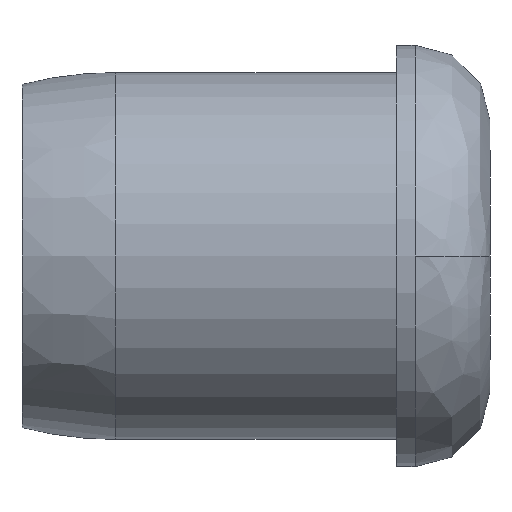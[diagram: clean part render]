
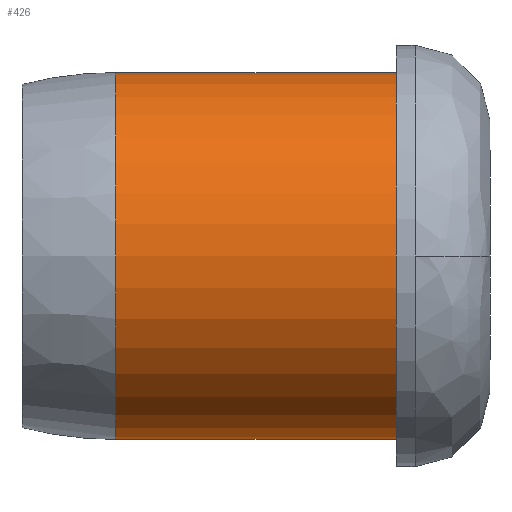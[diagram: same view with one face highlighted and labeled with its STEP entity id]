
A CAD part, front view. The second image highlights one B-rep face of the part: STEP entity #426.
In plain terms, the highlighted cylindrical face has radius 12.446 mm (diameter 24.892 mm), a partial arc.
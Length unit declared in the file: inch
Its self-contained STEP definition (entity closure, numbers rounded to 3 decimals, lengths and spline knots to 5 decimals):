
#26 = CARTESIAN_POINT ( 'NONE',  ( -0.25, 0., -0.49 ) ) ;
#40 = VECTOR ( 'NONE', #444, 39.37008 ) ;
#53 = CARTESIAN_POINT ( 'NONE',  ( -0.25, 0., 0.49 ) ) ;
#54 = EDGE_CURVE ( 'NONE', #233, #544, #381, .T. ) ;
#85 = VERTEX_POINT ( 'NONE', #400 ) ;
#94 = FACE_OUTER_BOUND ( 'NONE', #109, .T. ) ;
#96 = CARTESIAN_POINT ( 'NONE',  ( -1., 0., 0. ) ) ;
#109 = EDGE_LOOP ( 'NONE', ( #478, #308, #416, #276 ) ) ;
#126 = CARTESIAN_POINT ( 'NONE',  ( -1.25, 0., 0.49 ) ) ;
#139 = DIRECTION ( 'NONE',  ( 0., 0., 1. ) ) ;
#148 = CARTESIAN_POINT ( 'NONE',  ( -0.25, 0., 0. ) ) ;
#150 = AXIS2_PLACEMENT_3D ( 'NONE', #148, #464, #196 ) ;
#154 = DIRECTION ( 'NONE',  ( 0., 0., 1. ) ) ;
#184 = DIRECTION ( 'NONE',  ( -1., 0., 0. ) ) ;
#196 = DIRECTION ( 'NONE',  ( 0., 0., 1. ) ) ;
#206 = EDGE_CURVE ( 'NONE', #513, #85, #549, .T. ) ;
#207 = EDGE_CURVE ( 'NONE', #544, #85, #451, .T. ) ;
#233 = VERTEX_POINT ( 'NONE', #53 ) ;
#249 = DIRECTION ( 'NONE',  ( -1., 0., 0. ) ) ;
#276 = ORIENTED_EDGE ( 'NONE', *, *, #207, .T. ) ;
#292 = EDGE_CURVE ( 'NONE', #513, #233, #506, .T. ) ;
#304 = CYLINDRICAL_SURFACE ( 'NONE', #507, 0.49 ) ;
#308 = ORIENTED_EDGE ( 'NONE', *, *, #292, .T. ) ;
#381 = LINE ( 'NONE', #126, #40 ) ;
#400 = CARTESIAN_POINT ( 'NONE',  ( -1., 0., -0.49 ) ) ;
#414 = DIRECTION ( 'NONE',  ( 1., 0., 0. ) ) ;
#416 = ORIENTED_EDGE ( 'NONE', *, *, #54, .T. ) ;
#426 = ADVANCED_FACE ( 'NONE', ( #94 ), #304, .T. ) ;
#444 = DIRECTION ( 'NONE',  ( -1., 0., 0. ) ) ;
#451 = CIRCLE ( 'NONE', #463, 0.49 ) ;
#463 = AXIS2_PLACEMENT_3D ( 'NONE', #96, #414, #139 ) ;
#464 = DIRECTION ( 'NONE',  ( -1., 0., 0. ) ) ;
#478 = ORIENTED_EDGE ( 'NONE', *, *, #206, .F. ) ;
#494 = CARTESIAN_POINT ( 'NONE',  ( -1.25, 0., -0.49 ) ) ;
#506 = CIRCLE ( 'NONE', #150, 0.49 ) ;
#507 = AXIS2_PLACEMENT_3D ( 'NONE', #556, #249, #154 ) ;
#513 = VERTEX_POINT ( 'NONE', #26 ) ;
#544 = VERTEX_POINT ( 'NONE', #566 ) ;
#549 = LINE ( 'NONE', #494, #565 ) ;
#556 = CARTESIAN_POINT ( 'NONE',  ( -1.25, 0., 0. ) ) ;
#565 = VECTOR ( 'NONE', #184, 39.37008 ) ;
#566 = CARTESIAN_POINT ( 'NONE',  ( -1., 0., 0.49 ) ) ;
